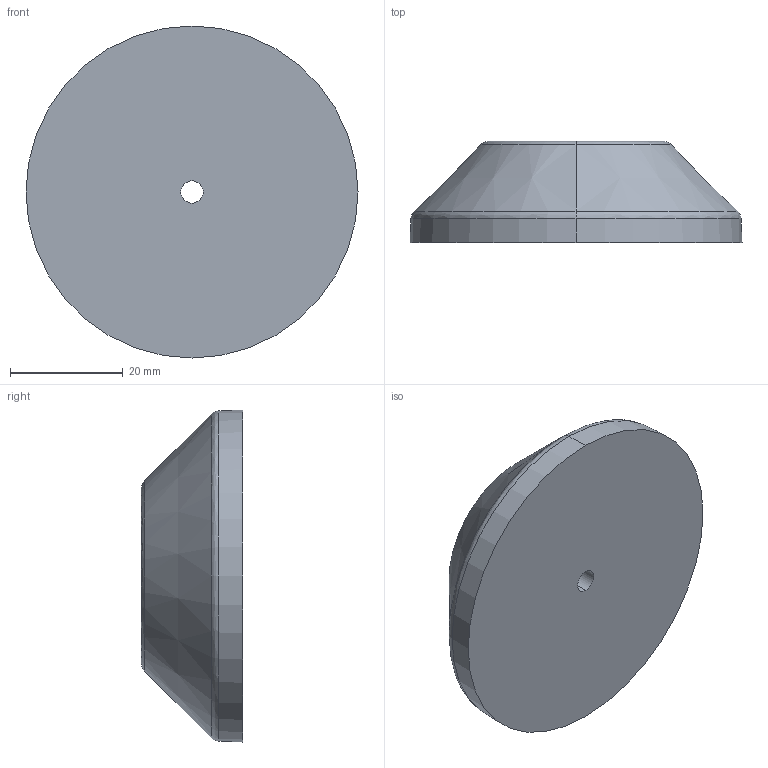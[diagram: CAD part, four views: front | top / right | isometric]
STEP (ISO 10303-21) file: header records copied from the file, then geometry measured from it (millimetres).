
FILE_DESCRIPTION (( 'STEP AP203' ), '1' );
FILE_NAME ('501283_Teller ZN Ø60 Trapezform inkl. Gummiteller.step', '2022-11-09T09:49:10', ( '' ), ( '' ), 'SwSTEP 2.0', 'SolidWorks 2021', '' );
FILE_SCHEMA (( 'CONFIG_CONTROL_DESIGN' ));
Length unit declared in the file: millimetre
Products named in the file (1): 501283_Teller ZN Ø60 Trapezform inkl. Gummiteller
Bounding box: 59 x 18 x 59 mm (x, y, z)
Volume: 32972.5 mm3; surface area: 7610.3 mm2
Topology: 1 solids, 1 shells, 18 faces, 36 edges, 22 vertices
Faces by surface type: cone 8, bspline 5, plane 3, cylinder 2
Entity records: 690 total; most frequent: CARTESIAN_POINT 242, DIRECTION 82, ORIENTED_EDGE 72, AXIS2_PLACEMENT_3D 36, EDGE_CURVE 36, VERTEX_POINT 22, CIRCLE 22, EDGE_LOOP 22
